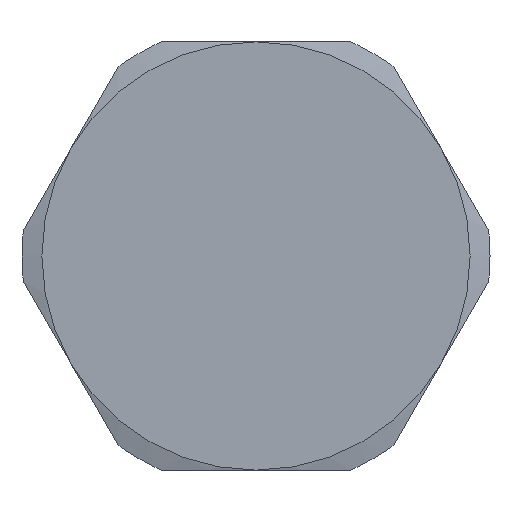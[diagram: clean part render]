
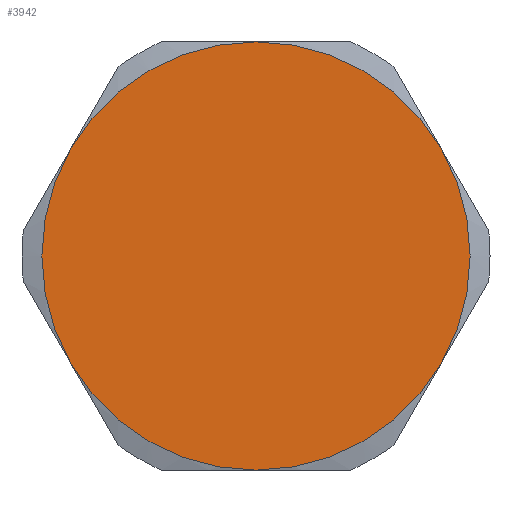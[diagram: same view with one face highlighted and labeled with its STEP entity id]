
A CAD part, left-side view. The second image highlights one B-rep face of the part: STEP entity #3942.
In plain terms, the highlighted planar face has unit normal (-1, 0, 0).
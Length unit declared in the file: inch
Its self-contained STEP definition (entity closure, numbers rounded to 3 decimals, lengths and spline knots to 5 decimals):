
#3432=CARTESIAN_POINT('',(-0.998,0.43301,0.25));
#3433=VERTEX_POINT('',#3432);
#3455=CARTESIAN_POINT('',(-0.998,0.43301,-0.25));
#3456=VERTEX_POINT('',#3455);
#3470=CARTESIAN_POINT('',(-0.998,0.,0.0));
#3471=DIRECTION('',(-1.0,0.0,0.0));
#3472=DIRECTION('',(0.0,0.0,-1.0));
#3473=AXIS2_PLACEMENT_3D('',#3470,#3471,#3472);
#3474=CIRCLE('',#3473,0.5);
#3475=EDGE_CURVE('',#3433,#3456,#3474,.T.);
#3487=CARTESIAN_POINT('',(-0.998,0.,0.5));
#3488=VERTEX_POINT('',#3487);
#3523=CARTESIAN_POINT('',(-0.998,0.,0.0));
#3524=DIRECTION('',(-1.0,0.0,0.0));
#3525=DIRECTION('',(0.0,0.0,-1.0));
#3526=AXIS2_PLACEMENT_3D('',#3523,#3524,#3525);
#3527=CIRCLE('',#3526,0.5);
#3528=EDGE_CURVE('',#3488,#3433,#3527,.T.);
#3551=CARTESIAN_POINT('',(-0.998,-0.43301,0.25));
#3552=VERTEX_POINT('',#3551);
#3553=CARTESIAN_POINT('',(-0.998,0.,0.0));
#3554=DIRECTION('',(-1.0,0.0,0.0));
#3555=DIRECTION('',(0.0,0.0,-1.0));
#3556=AXIS2_PLACEMENT_3D('',#3553,#3554,#3555);
#3557=CIRCLE('',#3556,0.5);
#3558=EDGE_CURVE('',#3552,#3488,#3557,.T.);
#3604=CARTESIAN_POINT('',(-0.998,-0.43301,-0.25));
#3605=VERTEX_POINT('',#3604);
#3606=CARTESIAN_POINT('',(-0.998,0.,0.0));
#3607=DIRECTION('',(-1.0,0.0,0.0));
#3608=DIRECTION('',(0.0,0.0,-1.0));
#3609=AXIS2_PLACEMENT_3D('',#3606,#3607,#3608);
#3610=CIRCLE('',#3609,0.5);
#3611=EDGE_CURVE('',#3605,#3552,#3610,.T.);
#3657=CARTESIAN_POINT('',(-0.998,0.,-0.5));
#3658=VERTEX_POINT('',#3657);
#3659=CARTESIAN_POINT('',(-0.998,0.,0.0));
#3660=DIRECTION('',(-1.0,0.0,0.0));
#3661=DIRECTION('',(0.0,0.0,-1.0));
#3662=AXIS2_PLACEMENT_3D('',#3659,#3660,#3661);
#3663=CIRCLE('',#3662,0.5);
#3664=EDGE_CURVE('',#3658,#3605,#3663,.T.);
#3710=CARTESIAN_POINT('',(-0.998,0.,0.0));
#3711=DIRECTION('',(-1.0,0.0,0.0));
#3712=DIRECTION('',(0.0,0.0,-1.0));
#3713=AXIS2_PLACEMENT_3D('',#3710,#3711,#3712);
#3714=CIRCLE('',#3713,0.5);
#3715=EDGE_CURVE('',#3456,#3658,#3714,.T.);
#3929=CARTESIAN_POINT('',(-0.998,0.0,0.0));
#3930=DIRECTION('',(-1.0,0.0,0.0));
#3931=DIRECTION('',(0.0,0.0,-1.0));
#3932=AXIS2_PLACEMENT_3D('',#3929,#3930,#3931);
#3933=PLANE('',#3932);
#3934=ORIENTED_EDGE('',*,*,#3715,.T.);
#3935=ORIENTED_EDGE('',*,*,#3664,.T.);
#3936=ORIENTED_EDGE('',*,*,#3611,.T.);
#3937=ORIENTED_EDGE('',*,*,#3558,.T.);
#3938=ORIENTED_EDGE('',*,*,#3528,.T.);
#3939=ORIENTED_EDGE('',*,*,#3475,.T.);
#3940=EDGE_LOOP('',(#3934,#3935,#3936,#3937,#3938,#3939));
#3941=FACE_OUTER_BOUND('',#3940,.T.);
#3942=ADVANCED_FACE('',(#3941),#3933,.T.);
